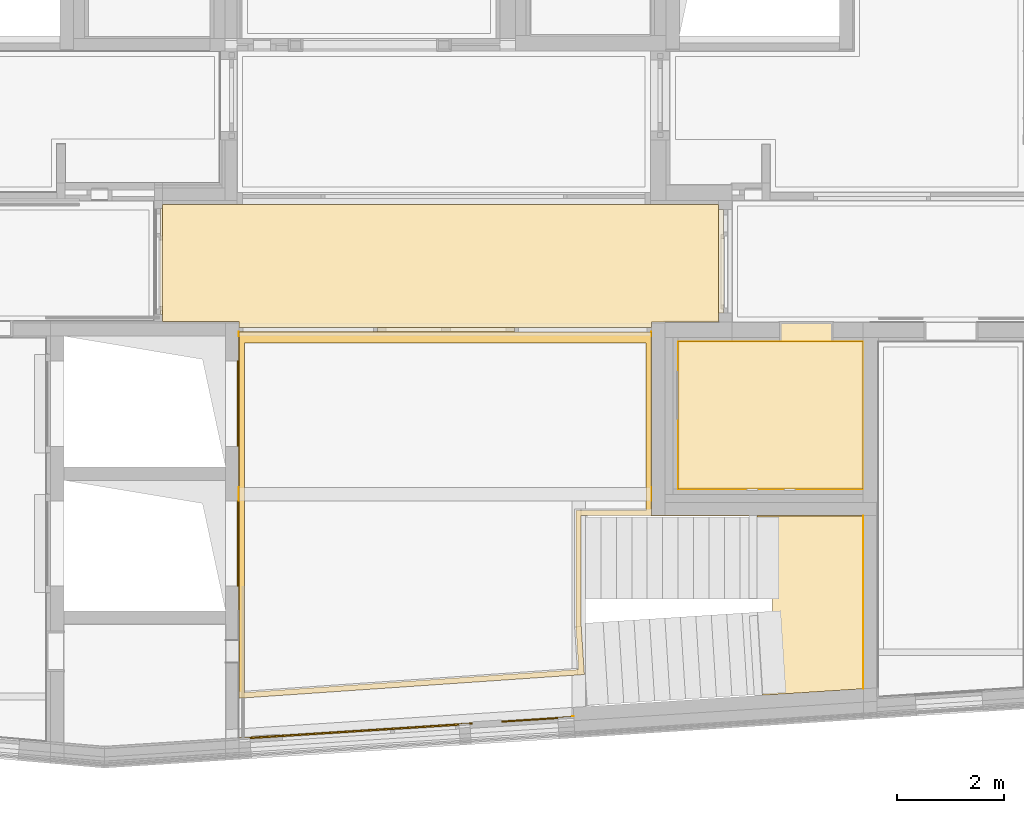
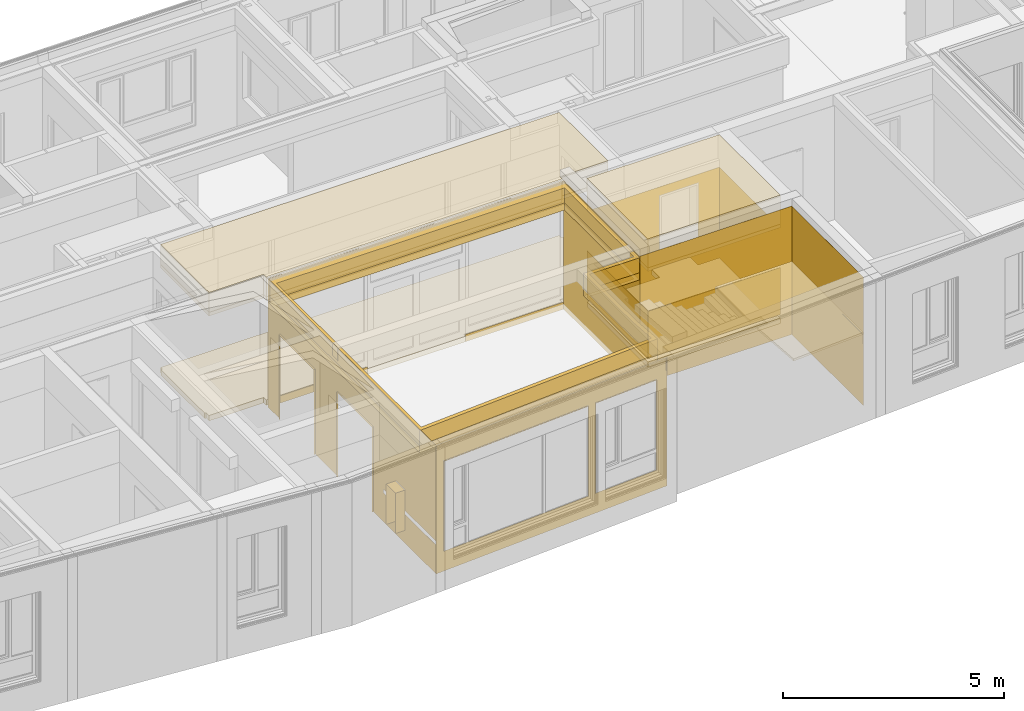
# One storey, part 167 of 222: 18 coverings.
"""IFC4 building model written with IfcOpenShell, lengths in metres."""

import ifcopenshell
import ifcopenshell.guid

model = None  # the IFC model being written
_history = None  # IfcOwnerHistory: only IFC2X3 demands one
_inside = {}  # id of a spatial element -> (the spatial element, [elements in it])
_under = {}  # id of a project, library or spatial element -> (it, [spatial elements below it])
_declared = {}  # id of a project -> (the project, [libraries it declares])
_typed = {}  # id of a type object -> (the type object, [elements of that type])
_made_of = {}  # id of a material, layer set ... -> (it, [elements and type objects made of it])


def new_model(schema):
    """Start an empty IFC model of exactly this schema.

    Asked for "IFC4X3", IfcOpenShell would pick the latest addendum, in which some entities
    have other attributes; the version numbers below select the first issue.
    IFC2X3 requires an IfcOwnerHistory on every rooted entity: one is made here for all.
    """
    global model, _history
    if schema == "IFC4X3":
        model = ifcopenshell.file(schema_version=(4, 3, 0, 0))
    else:
        model = ifcopenshell.file(schema=schema)
    _inside.clear()
    _under.clear()
    _declared.clear()
    _typed.clear()
    _made_of.clear()
    _history = None
    if model.schema == "IFC2X3":
        org = make("IfcOrganization", Name="unknown")
        user = make(
            "IfcPersonAndOrganization",
            ThePerson=make("IfcPerson", FamilyName="unknown"),
            TheOrganization=org,
        )
        app = make(
            "IfcApplication",
            ApplicationDeveloper=org,
            Version="unknown",
            ApplicationFullName="unknown",
            ApplicationIdentifier="unknown",
        )
        _history = make(
            "IfcOwnerHistory",
            OwningUser=user,
            OwningApplication=app,
            ChangeAction="ADDED",
            CreationDate=0,
        )
    return model


def make(cls, **values):
    """One entity of the class cls with the attributes given. An attribute that is None is left unset."""
    return model.create_entity(
        cls, **{name: value for name, value in values.items() if value is not None}
    )


def entity(cls, *values):
    """Any entity or typed value of the class cls, its attributes in the order of the schema. None: left unset."""
    e = model.create_entity(cls)
    for i, value in enumerate(values):
        if value is not None:
            e[i] = value
    return e


def rooted(cls, **values):
    """An entity with a GlobalId (a new one), such as an element, a storey or a relation."""
    return make(cls, GlobalId=ifcopenshell.guid.new(), OwnerHistory=_history, **values)


def si_unit(unit_type, name, prefix=None):
    """IfcSIUnit, for example si_unit("LENGTHUNIT", "METRE", prefix="MILLI")."""
    return make("IfcSIUnit", UnitType=unit_type, Prefix=prefix, Name=name)


def converted_unit(unit_type, name, factor, base, dimensions=None, offset=None):
    """IfcConversionBasedUnit, such as the inch: factor (a typed value) times the base unit."""
    return make(
        "IfcConversionBasedUnit"
        if offset is None
        else "IfcConversionBasedUnitWithOffset",
        ConversionOffset=offset,
        Dimensions=None
        if dimensions is None
        else entity("IfcDimensionalExponents", *dimensions),
        UnitType=unit_type,
        Name=name,
        ConversionFactor=make(
            "IfcMeasureWithUnit", ValueComponent=factor, UnitComponent=base
        ),
    )


def derived_unit(unit_type, elements):
    """IfcDerivedUnit: a product of units, each with its exponent."""
    return make(
        "IfcDerivedUnit",
        Elements=[
            make("IfcDerivedUnitElement", Unit=unit, Exponent=power)
            for unit, power in elements
        ],
        UnitType=unit_type,
    )


def assignment(units):
    """IfcUnitAssignment: the units of a project."""
    return None if units is None else make("IfcUnitAssignment", Units=units)


def point(xyz):
    """IfcCartesianPoint."""
    return None if xyz is None else make("IfcCartesianPoint", Coordinates=xyz)


def direction(xyz):
    """IfcDirection."""
    return None if xyz is None else make("IfcDirection", DirectionRatios=xyz)


def frame(location, z_axis=None, x_axis=None):
    """IfcAxis2Placement3D, a coordinate frame: its origin and axes. An axis left out is left unset."""
    return make(
        "IfcAxis2Placement3D",
        Location=point(location),
        Axis=direction(z_axis),
        RefDirection=direction(x_axis),
    )


def frame_2d(location, x_axis=None):
    """IfcAxis2Placement2D, a coordinate frame in the plane: its origin and x axis."""
    return make(
        "IfcAxis2Placement2D", Location=point(location), RefDirection=direction(x_axis)
    )


def origin():
    """The frame at (0, 0, 0) with its axes left unset."""
    return frame((0.0, 0.0, 0.0))


def origin_with_axes():
    """The frame at (0, 0, 0) with the z axis (0, 0, 1) and the x axis (1, 0, 0) written out."""
    return frame((0.0, 0.0, 0.0), z_axis=(0.0, 0.0, 1.0), x_axis=(1.0, 0.0, 0.0))


def place(relative_to, where):
    """IfcLocalPlacement: puts the frame where relative to a parent placement (None: the world)."""
    return make(
        "IfcLocalPlacement", PlacementRelTo=relative_to, RelativePlacement=where
    )


def context(
    kind, dimensions, precision=None, world=None, true_north=None, identifier=None
):
    """IfcGeometricRepresentationContext, for example the 3D "Model" context."""
    return make(
        "IfcGeometricRepresentationContext",
        ContextIdentifier=identifier,
        ContextType=kind,
        CoordinateSpaceDimension=dimensions,
        Precision=precision,
        WorldCoordinateSystem=world,
        TrueNorth=true_north,
    )


def subcontext(parent, identifier, kind, view, scale=None):
    """IfcGeometricRepresentationSubContext, for example "Body" below "Model"."""
    return make(
        "IfcGeometricRepresentationSubContext",
        ContextIdentifier=identifier,
        ContextType=kind,
        ParentContext=parent,
        TargetScale=scale,
        TargetView=view,
    )


def project(units=None, contexts=None):
    """IfcProject with its units and contexts."""
    return rooted(
        "IfcProject",
        Name="project",
        RepresentationContexts=contexts,
        UnitsInContext=assignment(units),
    )


def spatial(cls, under=None, at=None, **own):
    """A site, building, storey or space (cls), placed at a placement, below another one or the project."""
    s = rooted(cls, ObjectPlacement=at, **own)
    if under is not None:
        _under.setdefault(under.id(), (under, []))[1].append(s)
    return s


def polyline(points):
    """IfcPolyline through the points."""
    return make("IfcPolyline", Points=[point(p) for p in points])


def profile(cls, at=None, kind="AREA", **sizes):
    """A parametric profile (cls). Its sizes go by their IFC names, for example OverallWidth=200.0."""
    return make(cls, ProfileType=kind, Position=at, **sizes)


def rectangle(**sizes):
    """IfcRectangleProfileDef."""
    return profile("IfcRectangleProfileDef", **sizes)


def outline(outer, holes=None, kind="AREA"):
    """IfcArbitraryClosedProfileDef: a profile drawn as a closed curve; with holes, ...WithVoids."""
    if holes is None:
        return make("IfcArbitraryClosedProfileDef", ProfileType=kind, OuterCurve=outer)
    return make(
        "IfcArbitraryProfileDefWithVoids",
        ProfileType=kind,
        OuterCurve=outer,
        InnerCurves=holes,
    )


def extrude(swept, where, along, depth):
    """IfcExtrudedAreaSolid: the profile swept, set in the frame where, extruded along a direction by depth."""
    return make(
        "IfcExtrudedAreaSolid",
        SweptArea=swept,
        Position=where,
        ExtrudedDirection=direction(along),
        Depth=depth,
    )


def shape(context_of_items, identifier, shape_type, items):
    """IfcShapeRepresentation: the items that make up one representation, for example the "Body"."""
    return make(
        "IfcShapeRepresentation",
        ContextOfItems=context_of_items,
        RepresentationIdentifier=identifier,
        RepresentationType=shape_type,
        Items=items,
    )


def material(Name=None, Category=None):
    """IfcMaterial."""
    return make("IfcMaterial", Name=Name, Category=Category)


def layer(
    of_material, thickness, ventilated=None, Name=None, Category=None, Priority=None
):
    """IfcMaterialLayer: one layer of a wall or slab, of a material (None: an air gap)."""
    return make(
        "IfcMaterialLayer",
        Material=of_material,
        LayerThickness=thickness,
        IsVentilated=ventilated,
        Name=Name,
        Category=Category,
        Priority=Priority,
    )


def layer_set(layers, Name=None):
    """IfcMaterialLayerSet."""
    return make("IfcMaterialLayerSet", MaterialLayers=layers, LayerSetName=Name)


def layer_usage(for_layer_set, set_direction, sense, offset, extent=None):
    """IfcMaterialLayerSetUsage: how a layer set lies in its element."""
    return make(
        "IfcMaterialLayerSetUsage",
        ForLayerSet=for_layer_set,
        LayerSetDirection=set_direction,
        DirectionSense=sense,
        OffsetFromReferenceLine=offset,
        ReferenceExtent=extent,
    )


def made_of(thing, what):
    """Note that an element or type object is made of a material, layer set ...; save() writes the relation."""
    if what is not None:
        _made_of.setdefault(what.id(), (what, []))[1].append(thing)
    return thing


def element(
    cls,
    number,
    at=None,
    inside=None,
    cuts=None,
    type_object=None,
    material=None,
    context=None,
    identifier="Body",
    shape_type=None,
    held_by="IfcProductDefinitionShape",
    body=None,
    shapes=None,
    **own,
):
    """One element of the class cls, such as IfcWall. Its Tag is "e" and its number.

    at: its placement. inside: the storey or other place that contains it. cuts: it is an
    opening in that element (IfcRelVoidsElement). A single representation is given by context,
    identifier, shape_type and body (its items); several are given by shapes. held_by: the class
    of the entity that holds the representations. save() writes the other relations.
    """
    e = rooted(cls, Tag="e%d" % number, ObjectPlacement=at, **own)
    if body is not None:
        shapes = [shape(context, identifier, shape_type, body)]
    if shapes is not None:
        e.Representation = make(held_by, Representations=shapes)
    if inside is not None:
        _inside.setdefault(inside.id(), (inside, []))[1].append(e)
    if cuts is not None:
        rooted(
            "IfcRelVoidsElement", RelatingBuildingElement=cuts, RelatedOpeningElement=e
        )
    if type_object is not None:
        _typed.setdefault(type_object.id(), (type_object, []))[1].append(e)
    return made_of(e, material)


def aggregate(whole, parts):
    """IfcRelAggregates: a whole, such as a stair, and the parts it consists of."""
    return rooted("IfcRelAggregates", RelatingObject=whole, RelatedObjects=parts)


def save(model, path):
    """Write the relations noted so far, then the file.

    IfcRelAggregates (storeys below a building ...), IfcRelContainedInSpatialStructure (elements
    in a storey), IfcRelDefinesByType, IfcRelAssociatesMaterial and IfcRelDeclares: one each for
    every whole, place, type object, material and project.
    """
    for whole, parts in _under.values():
        aggregate(whole, parts)
    for where, things in _inside.values():
        rooted(
            "IfcRelContainedInSpatialStructure",
            RelatedElements=things,
            RelatingStructure=where,
        )
    for kind, things in _typed.values():
        rooted("IfcRelDefinesByType", RelatedObjects=things, RelatingType=kind)
    for what, things in _made_of.values():
        rooted("IfcRelAssociatesMaterial", RelatedObjects=things, RelatingMaterial=what)
    for by, libraries in _declared.values():
        rooted("IfcRelDeclares", RelatingContext=by, RelatedDefinitions=libraries)
    model.write(path)


model = new_model("IFC4")

# Units and contexts
model_context = context("Model", 3, precision=1e-05, world=origin())
body_context = subcontext(model_context, "Body", "Model", "MODEL_VIEW")
ifc_project = project(units=[si_unit("LENGTHUNIT", "METRE"), si_unit("AREAUNIT", "SQUARE_METRE"), si_unit("VOLUMEUNIT", "CUBIC_METRE"), si_unit("MASSUNIT", "GRAM", prefix="KILO"), converted_unit("PLANEANGLEUNIT", "DEGREE", entity("IfcPlaneAngleMeasure", 0.0174532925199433), si_unit("PLANEANGLEUNIT", "RADIAN"), dimensions=[0, 0, 0, 0, 0, 0, 0]), derived_unit("THERMALTRANSMITTANCEUNIT", [(si_unit("POWERUNIT", "WATT"), 1), (si_unit("THERMODYNAMICTEMPERATUREUNIT", "KELVIN"), -1), (si_unit("LENGTHUNIT", "METRE"), -2)]), derived_unit("VOLUMETRICFLOWRATEUNIT", [(si_unit("LENGTHUNIT", "METRE"), 3), (converted_unit("TIMEUNIT", "hour", entity("IfcTimeMeasure", 3600.0), si_unit("TIMEUNIT", "SECOND"), dimensions=[0, 0, 1, 0, 0, 0, 0]), -1), (si_unit("LENGTHUNIT", "METRE"), -1)])], contexts=[model_context])

# Site, building, storey, space
site_placement = place(None, origin())
site = spatial("IfcSite", under=ifc_project, at=site_placement, Name="Psychiatrie Neubau Wunstorf", CompositionType="ELEMENT")
building_placement = place(site_placement, origin())
building = spatial("IfcBuilding", under=site, at=building_placement, Name="Neubau H2 Stationsgebäude", CompositionType="ELEMENT")
storey_placement = place(building_placement, frame((0.0, 0.0, 3.6)))
storey = spatial("IfcBuildingStorey", under=building, at=storey_placement, Name="H2 Ebene +1", CompositionType="ELEMENT", Elevation=3.6)
space_1_placement = place(storey_placement, frame((50.5500000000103, -7.25106795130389, 0.0)))
space_1 = spatial("IfcSpace", under=storey, at=space_1_placement, Name="WUN-H2-E01-T01", CompositionType="ELEMENT")

# Coverings
ifc_material_1 = material(Name="Fl12")
ifc_layer_1 = layer(ifc_material_1, 0.06)
ifc_layer_set_1 = layer_set([ifc_layer_1])
ifc_layer_usage_1 = layer_usage(ifc_layer_set_1, "AXIS3", "POSITIVE", 0.0)
covering_1_placement = place(space_1_placement, frame((9.71000717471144, 0.799012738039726, 1.965)))
element("IfcCovering", 1, at=covering_1_placement, inside=space_1, material=ifc_layer_usage_1, Name="Fliesen Großformat", PredefinedType="FLOORING", context=body_context, shape_type="SweptSolid", body=[
    extrude(outline(polyline([(0.289770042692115, 1.51378293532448), (0.289706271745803, 1.51384275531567), (0.000302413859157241, 1.49525762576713), (0.0963258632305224, 0.0), (1.98978647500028, 0.121502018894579), (1.98978647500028, 3.36356389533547), (0.0, 3.36356389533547), (0.0, 1.81335854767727), (0.289770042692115, 1.81335854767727), (0.289770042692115, 1.51378293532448)])), origin_with_axes(), (0.0, 0.0, 1.0), 0.06),
])
ifc_material_2 = material(Name="03")
ifc_layer_2 = layer(ifc_material_2, 0.001)
ifc_layer_set_2 = layer_set([ifc_layer_2])
ifc_layer_usage_2 = layer_usage(ifc_layer_set_2, "AXIS3", "POSITIVE", 0.0)
covering_2_placement = place(space_1_placement, frame((-0.25000000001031, -0.0166453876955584, 0.0)))
element("IfcCovering", 2, at=covering_2_placement, inside=space_1, material=ifc_layer_usage_2, Name="Sichtbetonklasse SB3", PredefinedType="CLADDING", context=body_context, shape_type="SweptSolid", body=[
    extrude(rectangle(XDim=0.25, YDim=3.24206187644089, at=frame_2d((1.62103093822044, 0.125), x_axis=(-3.63797880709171e-15, 1.0))), frame((11.949793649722, 0.937160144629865, 1.965), z_axis=(-1.0, 0.0, -2.91038304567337e-14), x_axis=(0.0, 1.0, 0.0)), (0.0, 0.0, 1.0), 0.001),
    extrude(rectangle(XDim=0.63, YDim=0.0810012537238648, at=frame_2d((-0.0405006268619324, -0.315), x_axis=(0.0, -1.0))), frame((7.97800000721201, 7.62371578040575, 2.92), z_axis=(-1.0, -1.34737870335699e-13, -5.77456953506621e-15), x_axis=(-1.34737870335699e-13, 1.0, 0.0)), (0.0, 0.0, 1.0), 0.001),
    extrude(rectangle(XDim=0.25, YDim=0.35, at=frame_2d((-0.125, 0.175), x_axis=(-1.0, 0.0))), frame((7.97800000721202, 4.70772523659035, 3.55), z_axis=(-1.0, 0.0, 0.0), x_axis=(0.0, 1.0, 0.0)), (0.0, 0.0, 1.0), 0.001),
    extrude(rectangle(XDim=0.0810012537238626, YDim=0.63, at=frame_2d((-0.0405006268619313, 0.315), x_axis=(-1.0, 0.0))), frame((0.25000000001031, 7.54271452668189, 3.55), z_axis=(1.0, 0.0, 0.0), x_axis=(0.0, -1.0, 0.0)), (0.0, 0.0, 1.0), 0.001),
    extrude(rectangle(XDim=0.25, YDim=0.35, at=frame_2d((-0.125, 0.175), x_axis=(-1.0, 0.0))), frame((0.25000000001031, 4.45772523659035, 3.55), z_axis=(1.0, 0.0, 0.0), x_axis=(0.0, -1.0, 0.0)), (0.0, 0.0, 1.0), 0.001),
    extrude(rectangle(XDim=0.35, YDim=0.0291407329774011, at=frame_2d((-0.0145703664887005, -0.175), x_axis=(0.0, -1.0))), frame((6.52246466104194, 0.419453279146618, 3.2), z_axis=(-0.0640864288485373, 0.997944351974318, -1.96278964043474e-15), x_axis=(0.997944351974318, 0.0640864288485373, 0.0)), (0.0, 0.0, 1.0), 0.001),
])
ifc_material_3 = material(Name="47")
ifc_layer_3 = layer(ifc_material_3, 0.001)
ifc_layer_set_3 = layer_set([ifc_layer_3])
ifc_layer_usage_3 = layer_usage(ifc_layer_set_3, "AXIS3", "POSITIVE", 0.0)
covering_3_placement = place(space_1_placement, frame((-0.25000000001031, -0.0166453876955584, 0.0)))
element("IfcCovering", 3, at=covering_3_placement, inside=space_1, material=ifc_layer_usage_3, Name="Sichtbetonklasse SB3", PredefinedType="CLADDING", context=body_context, shape_type="SweptSolid", body=[
    extrude(rectangle(XDim=3.24206187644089, YDim=3.55, at=frame_2d((-1.62103093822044, 1.775), x_axis=(-1.0, 0.0))), frame((11.948793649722, 4.17922202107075, 3.55), z_axis=(-1.0, 0.0, 0.0), x_axis=(0.0, 1.0, 0.0)), (0.0, 0.0, 1.0), 0.001),
    extrude(rectangle(XDim=3.97179364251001, YDim=3.55, at=frame_2d((-1.985896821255, 1.775), x_axis=(-1.0, 0.0))), frame((7.97800000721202, 4.17922202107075, 3.55), z_axis=(-1.14494203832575e-16, -1.0, 0.0), x_axis=(-1.0, 1.14494203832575e-16, 0.0)), (0.0, 0.0, 1.0), 0.001),
    extrude(rectangle(XDim=3.55, YDim=3.444493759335, at=frame_2d((-1.7222468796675, -1.775), x_axis=(0.0, -1.0))), frame((7.97700000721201, 7.62371578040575, 0.0), z_axis=(-1.0, -4.22468909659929e-15, 1.35293392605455e-31), x_axis=(-4.22468909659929e-15, 1.0, 0.0)), (0.0, 0.0, 1.0), 0.001),
    extrude(outline(polyline([(2.59899982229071, 0.2), (2.59899982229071, 0.0), (2.22907110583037e-08, 0.0), (0.0, 0.2), (2.59899982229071, 0.2)])), frame((2.84899982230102, 7.62371578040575, 0.2), z_axis=(0.0, -1.0, 0.0), x_axis=(-1.0, 0.0, 0.0)), (0.0, 0.0, 1.0), 0.001),
    extrude(rectangle(XDim=0.2, YDim=2.56900018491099, at=frame_2d((1.2845000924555, 0.1), x_axis=(0.0, 1.0))), frame((7.97800000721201, 7.62371578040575, 0.2), z_axis=(0.0, -1.0, 0.0), x_axis=(-1.0, 0.0, 0.0)), (0.0, 0.0, 1.0), 0.001),
    extrude(rectangle(XDim=7.72800000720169, YDim=0.6, at=frame_2d((3.86400000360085, -0.3), x_axis=(1.0, 0.0))), frame((7.97800000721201, 7.62371578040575, 2.95), z_axis=(0.0, -1.0, 0.0), x_axis=(-1.0, 0.0, 0.0)), (0.0, 0.0, 1.0), 0.001),
    extrude(outline(polyline([(7.60707039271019, 3.55), (7.60707039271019, 2.75), (6.2000939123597, 2.75), (6.2000939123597, 3.2), (5.7800939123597, 3.2), (5.7800939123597, 2.75), (5.2310027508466, 2.75), (5.2310027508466, 2.65), (5.7800939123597, 2.65), (5.7800939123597, 2.08), (6.2000939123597, 2.08), (6.2000939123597, 2.65), (7.60707039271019, 2.65), (7.60707039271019, 0.0), (0.0, 0.0), (0.0, 3.55), (0.5460027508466, 3.55), (0.5460027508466, 1.2), (2.1460027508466, 1.2), (2.1460027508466, 3.55), (3.1659905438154, 3.55), (3.1659905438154, 1.2), (4.7659905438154, 1.2), (4.7659905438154, 3.55), (7.60707039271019, 3.55)])), frame((0.251000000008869, 7.62371578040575, 3.55), z_axis=(1.0, -3.25807213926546e-14, -5.535811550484e-14), x_axis=(-3.25807213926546e-14, -1.0, 0.0)), (0.0, 0.0, 1.0), 0.001),
    extrude(outline(polyline([(6.28538520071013, 3.55), (6.28538520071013, 0.0), (0.0, 0.0), (0.0, 3.55), (6.28538520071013, 3.55)]), holes=[polyline([(5.98578228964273, 3.0), (4.33578228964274, 3.0), (4.33578228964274, 0.5), (5.98578228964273, 0.5), (5.98578228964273, 3.0)]), polyline([(4.13000000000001, 3.0), (0.207422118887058, 3.0), (0.207422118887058, 0.5), (4.13000000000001, 0.5), (4.13000000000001, 3.0)])]), frame((0.249935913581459, 0.0176433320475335, 3.55), z_axis=(-0.0640864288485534, 0.997944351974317, 2.65565308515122e-18), x_axis=(0.997944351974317, 0.0640864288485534, 0.0)), (0.0, 0.0, 1.0), 0.001),
    extrude(rectangle(XDim=1.12, YDim=0.25, at=frame_2d((-0.125, -0.56), x_axis=(0.0, -1.0))), frame((0.25, 1.42462186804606, 0.35), z_axis=(0.0, 1.0, 0.0), x_axis=(1.0, 0.0, 0.0)), (0.0, 0.0, 1.0), 0.001),
    extrude(rectangle(XDim=0.42, YDim=0.25, at=frame_2d((0.125, 0.21), x_axis=(0.0, 1.0))), frame((0.0, 1.84362186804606, 1.469), z_axis=(0.0, 0.0, -1.0), x_axis=(1.0, 0.0, 0.0)), (0.0, 0.0, 1.0), 0.001),
    extrude(rectangle(XDim=1.12, YDim=0.25, at=frame_2d((-0.125, -0.56), x_axis=(0.0, -1.0))), frame((0.0, 1.84262186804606, 0.35), z_axis=(0.0, -1.0, 0.0), x_axis=(-1.0, 0.0, 0.0)), (0.0, 0.0, 1.0), 0.001),
    extrude(rectangle(XDim=2.35, YDim=0.0350000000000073, at=frame_2d((-0.0175, -1.175), x_axis=(3.09615217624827e-15, -1.0))), frame((0.21500000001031, 4.45672523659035, 0.0), z_axis=(0.0, -1.0, 0.0), x_axis=(-1.0, 0.0, 0.0)), (0.0, 0.0, 1.0), 0.001),
    extrude(rectangle(XDim=1.6, YDim=0.0350000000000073, at=frame_2d((-0.0175000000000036, -0.8), x_axis=(0.0, -1.0))), frame((0.25000000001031, 2.85772523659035, 2.349), z_axis=(0.0, 0.0, -1.0), x_axis=(1.0, 0.0, 0.0)), (0.0, 0.0, 1.0), 0.001),
    extrude(rectangle(XDim=2.35, YDim=0.0350000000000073, at=frame_2d((-0.0175000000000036, -1.175), x_axis=(0.0, -1.0))), frame((0.25000000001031, 2.85872523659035, 0.0), z_axis=(0.0, 1.0, 0.0), x_axis=(1.0, 0.0, 0.0)), (0.0, 0.0, 1.0), 0.001),
    extrude(rectangle(XDim=2.35, YDim=0.035, at=frame_2d((-0.0175, -1.175), x_axis=(0.0, -1.0))), frame((0.21500000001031, 7.07671302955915, 0.0), z_axis=(0.0, -1.0, 0.0), x_axis=(-1.0, 0.0, 0.0)), (0.0, 0.0, 1.0), 0.001),
    extrude(rectangle(XDim=1.6, YDim=0.035, at=frame_2d((-0.0175, -0.8), x_axis=(0.0, -1.0))), frame((0.25000000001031, 5.47771302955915, 2.349), z_axis=(0.0, 0.0, -1.0), x_axis=(1.0, 0.0, 0.0)), (0.0, 0.0, 1.0), 0.001),
    extrude(rectangle(XDim=2.35, YDim=0.0350000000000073, at=frame_2d((-0.0175000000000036, -1.175), x_axis=(0.0, -1.0))), frame((0.25000000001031, 5.47871302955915, 0.0), z_axis=(0.0, 1.0, 0.0), x_axis=(1.0, 0.0, 0.0)), (0.0, 0.0, 1.0), 0.001),
    extrude(rectangle(XDim=2.5, YDim=0.025, at=frame_2d((-0.0125, -1.25), x_axis=(0.0, -1.0))), frame((6.22247968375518, 0.400188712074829, 0.55), z_axis=(-0.997944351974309, -0.0640864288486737, 0.0), x_axis=(-0.0640864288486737, 0.997944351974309, 0.0)), (0.0, 0.0, 1.0), 0.001),
    extrude(rectangle(XDim=0.0250000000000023, YDim=1.65, at=frame_2d((0.824105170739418, -0.0403969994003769), x_axis=(0.0640864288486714, 0.997944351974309))), frame((4.57686944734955, 0.294510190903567, 3.049), z_axis=(0.0, 0.0, -1.0), x_axis=(1.0, 0.0, 0.0)), (0.0, 0.0, 1.0), 0.001),
    extrude(rectangle(XDim=0.025, YDim=2.5, at=frame_2d((0.0125000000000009, -1.25), x_axis=(1.0, 0.0))), frame((4.57786739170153, 0.294574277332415, 0.55), z_axis=(0.997944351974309, 0.0640864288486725, 1.16550771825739e-17), x_axis=(0.0640864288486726, -0.997944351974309, 0.0)), (0.0, 0.0, 1.0), 0.001),
    extrude(rectangle(XDim=0.0300000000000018, YDim=2.5, at=frame_2d((0.0150000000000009, -1.25), x_axis=(1.0, 0.0))), frame((0.457993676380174, 0.0300024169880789, 0.55), z_axis=(0.997944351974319, 0.0640864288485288, 0.0), x_axis=(0.0640864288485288, -0.997944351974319, 0.0)), (0.0, 0.0, 1.0), 0.001),
    extrude(rectangle(XDim=3.92257788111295, YDim=0.0300000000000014, at=frame_2d((-1.9562959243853, 0.140661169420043), x_axis=(-0.997944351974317, 0.0640864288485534))), frame((4.37151017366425, 0.281322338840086, 3.049), z_axis=(0.0, 0.0, -1.0), x_axis=(1.0, 0.0, 0.0)), (0.0, 0.0, 1.0), 0.001),
    extrude(rectangle(XDim=2.5, YDim=0.03, at=frame_2d((-0.015, -1.25), x_axis=(0.0, -1.0))), frame((4.37051222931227, 0.281258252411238, 0.55), z_axis=(-0.997944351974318, -0.0640864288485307, 2.33101543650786e-17), x_axis=(-0.0640864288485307, 0.997944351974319, 0.0)), (0.0, 0.0, 1.0), 0.001),
])
ifc_material_4 = material(Name="Installationshöhe")
ifc_layer_4 = layer(ifc_material_4, 0.414)
ifc_layer_set_4 = layer_set([ifc_layer_4])
ifc_layer_usage_4 = layer_usage(ifc_layer_set_4, "AXIS3", "POSITIVE", 0.0)
covering_4_placement = place(space_1_placement, frame((0.0, 0.74219463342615, 3.514)))
element("IfcCovering", 4, at=covering_4_placement, inside=space_1, material=ifc_layer_usage_4, Name="Gipsfaserplatten 2-lagig (BSK)", PredefinedType="CEILING", context=body_context, shape_type="SweptSolid", body=[
    extrude(outline(polyline([(0.0, 6.86487575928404), (0.0, 0.0), (7.7280000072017, 0.0), (7.72800000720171, 3.44449375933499), (6.41331183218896, 3.44449375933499), (6.41331183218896, 5.52254272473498), (6.4719343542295, 6.41973408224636), (0.0, 6.86487575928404)]), holes=[polyline([(7.62800000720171, 3.344493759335), (7.62800000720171, 0.210002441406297), (0.1, 0.210002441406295), (0.1, 6.75776147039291), (6.36584287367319, 6.32679483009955), (6.31506969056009, 5.52574666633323), (6.31331183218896, 3.34449375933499), (7.62800000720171, 3.344493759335)])]), frame((0.0, 6.86487575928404, 0.0), z_axis=(0.0, 0.0, -1.0), x_axis=(1.0, 0.0, 0.0)), (0.0, 0.0, 1.0), 0.414),
])
ifc_material_5 = material(Name="A1")
ifc_layer_5 = layer(ifc_material_5, 0.2)
ifc_layer_set_5 = layer_set([ifc_layer_5])
ifc_layer_usage_5 = layer_usage(ifc_layer_set_5, "AXIS3", "POSITIVE", 0.0)
covering_5_placement = place(space_1_placement, frame((0.0, 0.74219463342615, 3.1)))
element("IfcCovering", 5, at=covering_5_placement, inside=space_1, material=ifc_layer_usage_5, Name="Gipsfaserplatten 2-lagig (BSK)", PredefinedType="CEILING", context=body_context, shape_type="SweptSolid", body=[
    extrude(outline(polyline([(0.0, 6.86487575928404), (0.0, 0.0), (7.7280000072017, 0.0), (7.72800000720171, 3.44449375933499), (6.41331183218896, 3.44449375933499), (6.41331183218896, 5.52254272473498), (6.4719343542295, 6.41973408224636), (0.0, 6.86487575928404)]), holes=[polyline([(7.62800000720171, 3.344493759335), (7.62800000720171, 0.210002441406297), (0.1, 0.210002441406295), (0.1, 6.75776147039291), (6.36584287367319, 6.32679483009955), (6.31506969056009, 5.52574666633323), (6.31331183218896, 3.34449375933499), (7.62800000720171, 3.344493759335)])]), frame((0.0, 6.86487575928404, 0.0), z_axis=(0.0, 0.0, -1.0), x_axis=(1.0, 0.0, 0.0)), (0.0, 0.0, 1.0), 0.2),
])
ifc_material_6 = material(Name="D1")
ifc_layer_6 = layer(ifc_material_6, 0.001)
ifc_layer_set_6 = layer_set([ifc_layer_6])
ifc_layer_usage_6 = layer_usage(ifc_layer_set_6, "AXIS3", "POSITIVE", 0.0)
covering_6_placement = place(space_1_placement, frame((0.0, 0.74219463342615, 2.9)))
element("IfcCovering", 6, at=covering_6_placement, inside=space_1, material=ifc_layer_usage_6, Name="Gipsfaserplatten 2-lagig (BSK)", PredefinedType="CEILING", context=body_context, shape_type="SweptSolid", body=[
    extrude(outline(polyline([(0.0, 6.86487575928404), (0.0, 0.0), (7.7280000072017, 0.0), (7.72800000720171, 3.44449375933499), (6.41331183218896, 3.44449375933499), (6.41331183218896, 5.52254272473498), (6.4719343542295, 6.41973408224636), (0.0, 6.86487575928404)]), holes=[polyline([(7.62800000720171, 3.344493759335), (7.62800000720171, 0.210002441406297), (0.1, 0.210002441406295), (0.1, 6.75776147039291), (6.36584287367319, 6.32679483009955), (6.31506969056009, 5.52574666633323), (6.31331183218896, 3.34449375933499), (7.62800000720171, 3.344493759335)])]), frame((0.0, 6.86487575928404, 0.0), z_axis=(0.0, 0.0, -1.0), x_axis=(1.0, 0.0, 0.0)), (0.0, 0.0, 1.0), 0.001),
])

# Space
space_2_placement = place(storey_placement, frame((49.119690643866, 0.436002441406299, 0.0)))
space_2 = spatial("IfcSpace", under=storey, at=space_2_placement, Name="WUN-H2-E01-F01", CompositionType="ELEMENT")

# Coverings
ifc_material_7 = material(Name="Ku1")
ifc_layer_7 = layer(ifc_material_7, 0.15)
ifc_layer_set_7 = layer_set([ifc_layer_7])
ifc_layer_usage_7 = layer_usage(ifc_layer_set_7, "AXIS3", "POSITIVE", 0.0)
covering_7_placement = place(space_2_placement, frame((-0.0375000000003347, -0.0799999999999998, 0.0)))
element("IfcCovering", 7, at=covering_7_placement, inside=space_2, material=ifc_layer_usage_7, Name="PVC Holzoptik", PredefinedType="FLOORING", context=body_context, shape_type="SweptSolid", body=[
    extrude(rectangle(XDim=0.0849999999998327, YDim=1.9425, at=frame_2d((0.0424999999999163, 0.97125), x_axis=(1.0, 0.0))), frame((10.4571231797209, 0.349992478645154, 0.0), z_axis=(0.0, 0.0, 1.0), x_axis=(1.0, 0.0, 0.0)), (0.0, 0.0, 1.0), 0.15),
    extrude(rectangle(XDim=0.0375000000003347, YDim=1.9825, at=frame_2d((0.0187500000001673, 0.99125), x_axis=(1.0, 0.0))), frame((0.0, 0.323997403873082, 0.0), z_axis=(0.0, 0.0, 1.0), x_axis=(1.0, 0.0, 0.0)), (0.0, 0.0, 1.0), 0.15),
    extrude(rectangle(XDim=0.08, YDim=2.56, at=frame_2d((1.28, -0.04), x_axis=(0.0, -1.0))), frame((4.06680917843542, 0.0799999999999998, 0.0), z_axis=(0.0, 0.0, 1.0), x_axis=(1.0, 0.0, 0.0)), (0.0, 0.0, 1.0), 0.15),
    extrude(outline(polyline([(9.15830936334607, 0.0), (9.15830936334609, 0.1), (10.4196231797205, 0.0999999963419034), (10.4196231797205, 2.30649724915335), (0.0, 2.30649724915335), (0.0, 0.113997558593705), (1.43030935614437, 0.113997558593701), (1.43030935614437, 0.0), (9.15830936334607, 0.0)])), frame((0.0375000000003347, 0.0799999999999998, 0.0), z_axis=(0.0, 0.0, 1.0), x_axis=(1.0, 0.0, 0.0)), (0.0, 0.0, 1.0), 0.15),
])
ifc_material_8 = material()
ifc_layer_8 = layer(ifc_material_8, 0.036)
ifc_layer_set_8 = layer_set([ifc_layer_8])
ifc_layer_usage_8 = layer_usage(ifc_layer_set_8, "AXIS3", "POSITIVE", 0.0)
covering_8_placement = place(space_2_placement, frame((0.0, 0.0, 3.55)))
element("IfcCovering", 8, at=covering_8_placement, inside=space_2, material=ifc_layer_usage_8, Name="Gipsfaserplatten 2-lagig (BSK)", PredefinedType="CEILING", context=body_context, shape_type="SweptSolid", body=[
    extrude(outline(polyline([(9.15830936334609, 2.20649724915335), (9.15830936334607, 2.30649724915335), (1.43030935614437, 2.30649724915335), (1.43030935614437, 2.19249969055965), (0.0, 2.19249969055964), (0.0, 0.0), (10.4196231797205, 0.0), (10.4196231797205, 2.20649725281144), (9.15830936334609, 2.20649724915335)])), frame((0.0, 2.30649724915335, 0.0), z_axis=(0.0, 0.0, -1.0), x_axis=(1.0, 0.0, 0.0)), (0.0, 0.0, 1.0), 0.036),
])
ifc_material_9 = material(Name="Installationshöhe")
ifc_layer_9 = layer(ifc_material_9, 0.514)
ifc_layer_set_9 = layer_set([ifc_layer_9])
ifc_layer_usage_9 = layer_usage(ifc_layer_set_9, "AXIS3", "POSITIVE", 0.0)
covering_9_placement = place(space_2_placement, frame((0.0, 0.0, 3.514)))
element("IfcCovering", 9, at=covering_9_placement, inside=space_2, material=ifc_layer_usage_9, Name="Gipsfaserplatten 2-lagig (BSK)", PredefinedType="CEILING", context=body_context, shape_type="SweptSolid", body=[
    extrude(outline(polyline([(9.15830936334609, 2.20649724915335), (9.15830936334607, 2.30649724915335), (1.43030935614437, 2.30649724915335), (1.43030935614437, 2.19249969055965), (0.0, 2.19249969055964), (0.0, 0.0), (10.4196231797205, 0.0), (10.4196231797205, 2.20649725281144), (9.15830936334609, 2.20649724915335)])), frame((0.0, 2.30649724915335, 0.0), z_axis=(0.0, 0.0, -1.0), x_axis=(1.0, 0.0, 0.0)), (0.0, 0.0, 1.0), 0.514),
])
ifc_material_10 = material(Name="A1")
ifc_layer_10 = layer(ifc_material_10, 0.1)
ifc_layer_set_10 = layer_set([ifc_layer_10])
ifc_layer_usage_10 = layer_usage(ifc_layer_set_10, "AXIS3", "POSITIVE", 0.0)
covering_10_placement = place(space_2_placement, frame((0.0, 0.0, 3.0)))
element("IfcCovering", 10, at=covering_10_placement, inside=space_2, material=ifc_layer_usage_10, Name="Gipsfaserplatten 2-lagig (BSK)", PredefinedType="CEILING", context=body_context, shape_type="SweptSolid", body=[
    extrude(outline(polyline([(9.15830936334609, 2.20649724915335), (9.15830936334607, 2.30649724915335), (1.43030935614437, 2.30649724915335), (1.43030935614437, 2.19249969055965), (0.0, 2.19249969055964), (0.0, 0.0), (10.4196231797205, 0.0), (10.4196231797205, 2.20649725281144), (9.15830936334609, 2.20649724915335)])), frame((0.0, 2.30649724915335, 0.0), z_axis=(0.0, 0.0, -1.0), x_axis=(1.0, 0.0, 0.0)), (0.0, 0.0, 1.0), 0.1),
])
ifc_material_11 = material(Name="D1")
ifc_layer_11 = layer(ifc_material_11, 0.001)
ifc_layer_set_11 = layer_set([ifc_layer_11])
ifc_layer_usage_11 = layer_usage(ifc_layer_set_11, "AXIS3", "POSITIVE", 0.0)
covering_11_placement = place(space_2_placement, frame((0.0, 0.0, 2.9)))
element("IfcCovering", 11, at=covering_11_placement, inside=space_2, material=ifc_layer_usage_11, Name="Gipsfaserplatten 2-lagig (BSK)", PredefinedType="CEILING", context=body_context, shape_type="SweptSolid", body=[
    extrude(outline(polyline([(9.15830936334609, 2.20649724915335), (9.15830936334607, 2.30649724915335), (1.43030935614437, 2.30649724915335), (1.43030935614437, 2.19249969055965), (0.0, 2.19249969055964), (0.0, 0.0), (10.4196231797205, 0.0), (10.4196231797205, 2.20649725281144), (9.15830936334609, 2.20649724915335)])), frame((0.0, 2.30649724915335, 0.0), z_axis=(0.0, 0.0, -1.0), x_axis=(1.0, 0.0, 0.0)), (0.0, 0.0, 1.0), 0.001),
])

# Space
space_3_placement = place(storey_placement, frame((58.778000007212, -2.5884913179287, 0.0)))
space_3 = spatial("IfcSpace", under=storey, at=space_3_placement, Name="WUN-H2-E01-062", CompositionType="ELEMENT")

# Coverings
ifc_material_12 = material(Name="Fl1")
ifc_layer_12 = layer(ifc_material_12, 0.15)
ifc_layer_set_12 = layer_set([ifc_layer_12])
ifc_layer_usage_12 = layer_usage(ifc_layer_set_12, "AXIS3", "POSITIVE", 0.0)
covering_12_placement = place(space_3_placement, origin())
element("IfcCovering", 12, at=covering_12_placement, inside=space_3, material=ifc_layer_usage_12, Name="Fliesen", PredefinedType="FLOORING", context=body_context, shape_type="SweptSolid", body=[
    extrude(rectangle(XDim=0.365, YDim=1.01, at=frame_2d((0.505, -0.1825), x_axis=(0.0, -1.0))), frame((1.89622556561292, 3.12449375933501, 0.0), z_axis=(0.0, 0.0, 1.0), x_axis=(1.0, 0.0, 0.0)), (0.0, 0.0, 1.0), 0.15),
    extrude(rectangle(XDim=3.46179364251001, YDim=2.759493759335, at=frame_2d((1.73089682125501, 1.3797468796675), x_axis=(1.0, 0.0))), origin_with_axes(), (0.0, 0.0, 1.0), 0.15),
])
ifc_material_13 = material()
ifc_layer_13 = layer(ifc_material_13, 0.036)
ifc_layer_set_13 = layer_set([ifc_layer_13])
ifc_layer_usage_13 = layer_usage(ifc_layer_set_13, "AXIS3", "POSITIVE", 0.0)
covering_13_placement = place(space_3_placement, frame((0.0, 0.0, 3.55)))
element("IfcCovering", 13, at=covering_13_placement, inside=space_3, material=ifc_layer_usage_13, Name="Gipsfaserplatten 2-lagig (BSK)", PredefinedType="CEILING", context=body_context, shape_type="SweptSolid", body=[
    extrude(rectangle(XDim=3.46179364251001, YDim=2.759493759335, at=frame_2d((-1.73089682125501, -1.3797468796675), x_axis=(-1.0, 0.0))), frame((3.46179364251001, 0.0, 0.0), z_axis=(0.0, 0.0, -1.0), x_axis=(1.0, 0.0, 0.0)), (0.0, 0.0, 1.0), 0.036),
])
ifc_material_14 = material(Name="Installationshöhe")
ifc_layer_14 = layer(ifc_material_14, 0.764)
ifc_layer_set_14 = layer_set([ifc_layer_14])
ifc_layer_usage_14 = layer_usage(ifc_layer_set_14, "AXIS3", "POSITIVE", 0.0)
covering_14_placement = place(space_3_placement, frame((0.0, 0.0, 3.514)))
element("IfcCovering", 14, at=covering_14_placement, inside=space_3, material=ifc_layer_usage_14, Name="Gipsfaserplatten 2-lagig (BSK)", PredefinedType="CEILING", context=body_context, shape_type="SweptSolid", body=[
    extrude(rectangle(XDim=3.46179364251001, YDim=2.759493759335, at=frame_2d((-1.73089682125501, -1.3797468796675), x_axis=(-1.0, 0.0))), frame((3.46179364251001, 0.0, 0.0), z_axis=(0.0, 0.0, -1.0), x_axis=(1.0, 0.0, 0.0)), (0.0, 0.0, 1.0), 0.764),
])
ifc_material_15 = material(Name="B")
ifc_layer_15 = layer(ifc_material_15, 0.1)
ifc_layer_set_15 = layer_set([ifc_layer_15])
ifc_layer_usage_15 = layer_usage(ifc_layer_set_15, "AXIS3", "POSITIVE", 0.0)
covering_15_placement = place(space_3_placement, frame((0.0, 0.0, 2.75)))
element("IfcCovering", 15, at=covering_15_placement, inside=space_3, material=ifc_layer_usage_15, Name="Gipskarton, imprägniert", PredefinedType="CEILING", context=body_context, shape_type="SweptSolid", body=[
    extrude(rectangle(XDim=3.46179364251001, YDim=2.759493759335, at=frame_2d((-1.73089682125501, -1.3797468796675), x_axis=(-1.0, 0.0))), frame((3.46179364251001, 0.0, 0.0), z_axis=(0.0, 0.0, -1.0), x_axis=(1.0, 0.0, 0.0)), (0.0, 0.0, 1.0), 0.1),
])
ifc_material_16 = material(Name="D1")
ifc_layer_16 = layer(ifc_material_16, 0.001)
ifc_layer_set_16 = layer_set([ifc_layer_16])
ifc_layer_usage_16 = layer_usage(ifc_layer_set_16, "AXIS3", "POSITIVE", 0.0)
covering_16_placement = place(space_3_placement, frame((0.0, 0.0, 2.65)))
element("IfcCovering", 16, at=covering_16_placement, inside=space_3, material=ifc_layer_usage_16, Name="Gipsfaserplatten 2-lagig (BSK)", PredefinedType="CEILING", context=body_context, shape_type="SweptSolid", body=[
    extrude(rectangle(XDim=3.46179364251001, YDim=2.759493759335, at=frame_2d((-1.73089682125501, -1.3797468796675), x_axis=(-1.0, 0.0))), frame((3.46179364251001, 0.0, 0.0), z_axis=(0.0, 0.0, -1.0), x_axis=(1.0, 0.0, 0.0)), (0.0, 0.0, 1.0), 0.001),
])
ifc_material_17 = material(Name="50")
ifc_layer_17 = layer(ifc_material_17, 0.001)
ifc_layer_set_17 = layer_set([ifc_layer_17])
ifc_layer_usage_17 = layer_usage(ifc_layer_set_17, "AXIS3", "POSITIVE", 0.0)
covering_17_placement = place(space_3_placement, frame((0.0, 0.0, 0.15)))
element("IfcCovering", 17, at=covering_17_placement, inside=space_3, material=ifc_layer_usage_17, PredefinedType="CLADDING", context=body_context, shape_type="SweptSolid", body=[
    extrude(outline(polyline([(0.0, 2.5), (0.555568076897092, 2.5), (0.555568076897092, 0.24), (1.56556807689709, 0.24), (1.56556807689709, 2.5), (3.46179364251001, 2.5), (3.46179364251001, 0.0), (0.0, 0.0), (0.0, 2.5)])), frame((3.46179364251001, 2.759493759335, 2.5), z_axis=(0.0, -1.0, 5.72043598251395e-16), x_axis=(-1.0, 0.0, 0.0)), (0.0, 0.0, 1.0), 0.001),
    extrude(rectangle(XDim=2.759493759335, YDim=0.1, at=frame_2d((1.3797468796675, -0.05), x_axis=(1.0, 0.0))), frame((0.0, 2.759493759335, 0.0), z_axis=(1.0, 0.0, 0.0), x_axis=(0.0, -1.0, 0.0)), (0.0, 0.0, 1.0), 0.001),
    extrude(rectangle(XDim=2.759493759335, YDim=1.1, at=frame_2d((1.3797468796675, -0.55), x_axis=(1.0, 0.0))), frame((0.0, 2.759493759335, 1.4), z_axis=(1.0, 0.0, 0.0), x_axis=(0.0, -1.0, 0.0)), (0.0, 0.0, 1.0), 0.001),
    extrude(rectangle(XDim=3.46179364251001, YDim=0.1, at=frame_2d((1.73089682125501, -0.05), x_axis=(1.0, 0.0))), frame((0.0, 0.0, 0.0), z_axis=(0.0, 1.0, 0.0), x_axis=(1.0, 0.0, 0.0)), (0.0, 0.0, 1.0), 0.001),
    extrude(rectangle(XDim=3.46179364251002, YDim=1.1, at=frame_2d((1.73089682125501, -0.55), x_axis=(1.0, 0.0))), frame((0.0, 0.0, 1.4), z_axis=(0.0, 1.0, 0.0), x_axis=(1.0, 0.0, 0.0)), (0.0, 0.0, 1.0), 0.001),
    extrude(rectangle(XDim=2.759493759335, YDim=2.5, at=frame_2d((1.3797468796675, -1.25), x_axis=(1.0, 0.0))), frame((3.46179364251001, 0.0, 0.0), z_axis=(-1.0, 0.0, 0.0), x_axis=(0.0, 1.0, 0.0)), (0.0, 0.0, 1.0), 0.001),
])
ifc_material_18 = material(Name="65")
ifc_layer_18 = layer(ifc_material_18, 0.01)
ifc_layer_set_18 = layer_set([ifc_layer_18])
ifc_layer_usage_18 = layer_usage(ifc_layer_set_18, "AXIS3", "POSITIVE", 0.0)
covering_18_placement = place(space_3_placement, frame((0.0, 0.0, 0.25)))
element("IfcCovering", 18, at=covering_18_placement, inside=space_3, material=ifc_layer_usage_18, Name="a-sh Wandbelag", PredefinedType="CLADDING", context=body_context, shape_type="SweptSolid", body=[
    extrude(rectangle(XDim=2.759493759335, YDim=1.3, at=frame_2d((1.3797468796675, -0.65), x_axis=(1.0, 0.0))), frame((0.0, 2.759493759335, 0.0), z_axis=(1.0, 0.0, 0.0), x_axis=(0.0, -1.0, 0.0)), (0.0, 0.0, 1.0), 0.01),
    extrude(rectangle(XDim=3.46179364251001, YDim=1.3, at=frame_2d((1.73089682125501, -0.65), x_axis=(1.0, 0.0))), frame((0.0, 0.0, 0.0), z_axis=(-1.31361773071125e-16, 1.0, 0.0), x_axis=(1.0, 1.31361773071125e-16, 0.0)), (0.0, 0.0, 1.0), 0.01),
])

save(model, "model.ifc")
